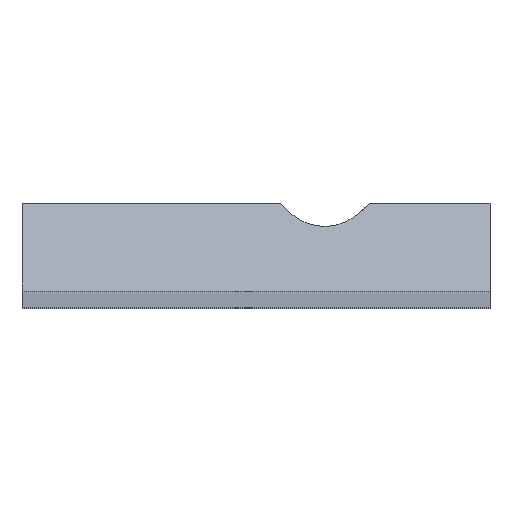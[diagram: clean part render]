
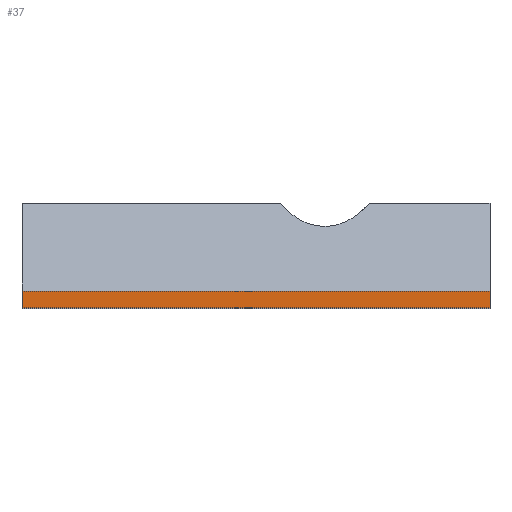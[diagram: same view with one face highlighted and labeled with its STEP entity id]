
A CAD part, top view. The second image highlights one B-rep face of the part: STEP entity #37.
In plain terms, the highlighted planar face has unit normal (0, 0, 1).
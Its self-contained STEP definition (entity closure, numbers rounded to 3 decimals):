
#37=ADVANCED_FACE('',(#50),#499,.T.);
#50=FACE_OUTER_BOUND('',#63,.T.);
#63=EDGE_LOOP('',(#94,#95,#96,#97));
#94=ORIENTED_EDGE('',*,*,#351,.T.);
#95=ORIENTED_EDGE('',*,*,#352,.T.);
#96=ORIENTED_EDGE('',*,*,#353,.T.);
#97=ORIENTED_EDGE('',*,*,#349,.F.);
#171=PCURVE('',#498,#243);
#174=PCURVE('',#499,#246);
#175=PCURVE('',#499,#247);
#176=PCURVE('',#499,#248);
#177=PCURVE('',#499,#249);
#181=PCURVE('',#500,#253);
#195=PCURVE('',#503,#267);
#204=PCURVE('',#504,#276);
#243=DEFINITIONAL_REPRESENTATION('',(#402),#1041);
#246=DEFINITIONAL_REPRESENTATION('',(#407),#1041);
#247=DEFINITIONAL_REPRESENTATION('',(#409),#1041);
#248=DEFINITIONAL_REPRESENTATION('',(#411),#1041);
#249=DEFINITIONAL_REPRESENTATION('',(#412),#1041);
#253=DEFINITIONAL_REPRESENTATION('',(#419),#1041);
#267=DEFINITIONAL_REPRESENTATION('',(#438),#1041);
#276=DEFINITIONAL_REPRESENTATION('',(#448),#1041);
#313=SURFACE_CURVE('',#401,(#171,#177),.PCURVE_S1.);
#315=SURFACE_CURVE('',#406,(#174,#195),.PCURVE_S1.);
#316=SURFACE_CURVE('',#408,(#175,#181),.PCURVE_S1.);
#317=SURFACE_CURVE('',#410,(#176,#204),.PCURVE_S1.);
#349=EDGE_CURVE('',#477,#478,#313,.T.);
#351=EDGE_CURVE('',#477,#479,#315,.T.);
#352=EDGE_CURVE('',#479,#480,#316,.T.);
#353=EDGE_CURVE('',#480,#478,#317,.T.);
#401=B_SPLINE_CURVE_WITH_KNOTS('',1,(#792,#793),.UNSPECIFIED.,.F.,.F.,(2,
2),(0.,17.),.UNSPECIFIED.);
#402=B_SPLINE_CURVE_WITH_KNOTS('',1,(#794,#795),.UNSPECIFIED.,.F.,.F.,(2,
2),(0.,17.),.UNSPECIFIED.);
#406=B_SPLINE_CURVE_WITH_KNOTS('',1,(#802,#803),.UNSPECIFIED.,.F.,.F.,(2,
2),(8.975,9.575),.UNSPECIFIED.);
#407=B_SPLINE_CURVE_WITH_KNOTS('',1,(#804,#805),.UNSPECIFIED.,.F.,.F.,(2,
2),(8.975,9.575),.UNSPECIFIED.);
#408=B_SPLINE_CURVE_WITH_KNOTS('',1,(#806,#807),.UNSPECIFIED.,.F.,.F.,(2,
2),(0.,17.),.UNSPECIFIED.);
#409=B_SPLINE_CURVE_WITH_KNOTS('',1,(#808,#809),.UNSPECIFIED.,.F.,.F.,(2,
2),(0.,17.),.UNSPECIFIED.);
#410=B_SPLINE_CURVE_WITH_KNOTS('',1,(#810,#811),.UNSPECIFIED.,.F.,.F.,(2,
2),(-9.575,-8.975),.UNSPECIFIED.);
#411=B_SPLINE_CURVE_WITH_KNOTS('',1,(#812,#813),.UNSPECIFIED.,.F.,.F.,(2,
2),(-9.575,-8.975),.UNSPECIFIED.);
#412=B_SPLINE_CURVE_WITH_KNOTS('',1,(#814,#815),.UNSPECIFIED.,.F.,.F.,(2,
2),(0.,17.),.UNSPECIFIED.);
#419=B_SPLINE_CURVE_WITH_KNOTS('',1,(#828,#829),.UNSPECIFIED.,.F.,.F.,(2,
2),(0.,17.),.UNSPECIFIED.);
#438=B_SPLINE_CURVE_WITH_KNOTS('',1,(#922,#923),.UNSPECIFIED.,.F.,.F.,(2,
2),(8.975,9.575),.UNSPECIFIED.);
#448=B_SPLINE_CURVE_WITH_KNOTS('',1,(#942,#943),.UNSPECIFIED.,.F.,.F.,(2,
2),(-9.575,-8.975),.UNSPECIFIED.);
#477=VERTEX_POINT('',#636);
#478=VERTEX_POINT('',#637);
#479=VERTEX_POINT('',#638);
#480=VERTEX_POINT('',#639);
#498=PLANE('',#550);
#499=PLANE('',#551);
#500=PLANE('',#552);
#503=PLANE('',#555);
#504=PLANE('',#556);
#550=AXIS2_PLACEMENT_3D('',#585,#567,$);
#551=AXIS2_PLACEMENT_3D('',#586,#568,$);
#552=AXIS2_PLACEMENT_3D('',#587,#569,$);
#555=AXIS2_PLACEMENT_3D('',#626,#572,$);
#556=AXIS2_PLACEMENT_3D('',#627,#573,$);
#567=DIRECTION('',(1.,0.,0.));
#568=DIRECTION('',(0.,0.,1.));
#569=DIRECTION('',(1.,0.,0.));
#572=DIRECTION('',(0.,-1.,0.));
#573=DIRECTION('',(0.,1.,0.));
#585=CARTESIAN_POINT('',(-0.6,-11.,4.15));
#586=CARTESIAN_POINT('',(-0.6,-11.,2.9));
#587=CARTESIAN_POINT('',(0.,-11.,2.9));
#626=CARTESIAN_POINT('',(-4.275,-11.,5.188));
#627=CARTESIAN_POINT('',(-4.275,6.,5.188));
#636=CARTESIAN_POINT('',(-0.6,-11.,2.9));
#637=CARTESIAN_POINT('',(-0.6,6.,2.9));
#638=CARTESIAN_POINT('',(0.,-11.,2.9));
#639=CARTESIAN_POINT('',(0.,6.,2.9));
#792=CARTESIAN_POINT('',(-0.6,-11.,2.9));
#793=CARTESIAN_POINT('',(-0.6,6.,2.9));
#794=CARTESIAN_POINT('',(8.975,0.));
#795=CARTESIAN_POINT('',(8.975,17.));
#802=CARTESIAN_POINT('',(-0.6,-11.,2.9));
#803=CARTESIAN_POINT('',(0.,-11.,2.9));
#804=CARTESIAN_POINT('',(8.975,0.));
#805=CARTESIAN_POINT('',(9.575,0.));
#806=CARTESIAN_POINT('',(0.,-11.,2.9));
#807=CARTESIAN_POINT('',(0.,6.,2.9));
#808=CARTESIAN_POINT('',(9.575,0.));
#809=CARTESIAN_POINT('',(9.575,17.));
#810=CARTESIAN_POINT('',(0.,6.,2.9));
#811=CARTESIAN_POINT('',(-0.6,6.,2.9));
#812=CARTESIAN_POINT('',(9.575,17.));
#813=CARTESIAN_POINT('',(8.975,17.));
#814=CARTESIAN_POINT('',(8.975,0.));
#815=CARTESIAN_POINT('',(8.975,17.));
#828=CARTESIAN_POINT('',(9.575,0.));
#829=CARTESIAN_POINT('',(9.575,17.));
#922=CARTESIAN_POINT('',(-7.05,0.));
#923=CARTESIAN_POINT('',(-7.05,0.6));
#942=CARTESIAN_POINT('',(0.6,-7.05));
#943=CARTESIAN_POINT('',(0.,-7.05));
#1041=(
GEOMETRIC_REPRESENTATION_CONTEXT(2)
PARAMETRIC_REPRESENTATION_CONTEXT()
REPRESENTATION_CONTEXT('pspace','')
);
